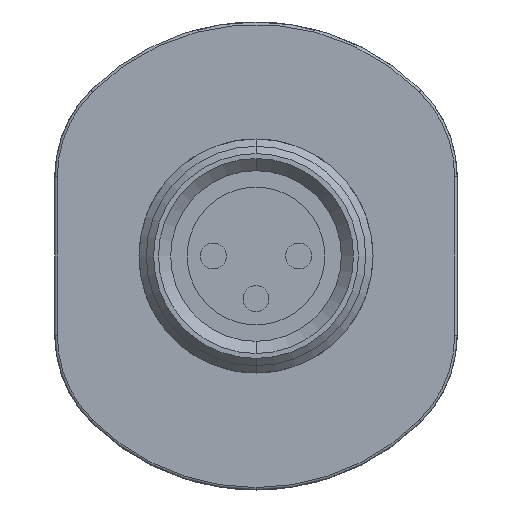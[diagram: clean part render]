
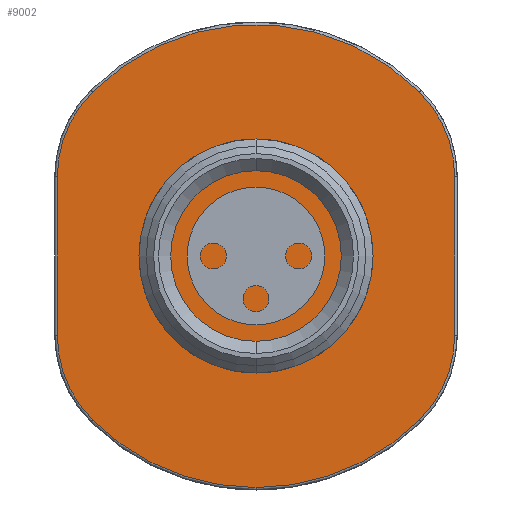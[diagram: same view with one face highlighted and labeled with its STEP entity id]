
A CAD part, left-side view. The second image highlights one B-rep face of the part: STEP entity #9002.
In plain terms, the highlighted planar face has unit normal (-1, 0, 0).
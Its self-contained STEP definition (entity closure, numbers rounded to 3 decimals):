
#19 = AXIS2_PLACEMENT_3D ( 'NONE', #7682, #33, #1729 ) ;
#33 = DIRECTION ( 'NONE',  ( -1., 0., 0. ) ) ;
#333 = LINE ( 'NONE', #4489, #15792 ) ;
#511 = EDGE_CURVE ( 'NONE', #1897, #17822, #5029, .T. ) ;
#1247 = DIRECTION ( 'NONE',  ( 0., 0., -1. ) ) ;
#1471 = EDGE_CURVE ( 'NONE', #7223, #5273, #3678, .T. ) ;
#1729 = DIRECTION ( 'NONE',  ( 0., 0., -1. ) ) ;
#1897 = VERTEX_POINT ( 'NONE', #17645 ) ;
#2106 = DIRECTION ( 'NONE',  ( 0., 0., -1. ) ) ;
#2234 = AXIS2_PLACEMENT_3D ( 'NONE', #18910, #19753, #19065 ) ;
#2581 = VECTOR ( 'NONE', #1247, 1000. ) ;
#2825 = VERTEX_POINT ( 'NONE', #15793 ) ;
#2945 = VERTEX_POINT ( 'NONE', #19493 ) ;
#3105 = LINE ( 'NONE', #21486, #2581 ) ;
#3678 = CIRCLE ( 'NONE', #16565, 4.9 ) ;
#4489 = CARTESIAN_POINT ( 'NONE',  ( 0., -8.15, 3.255 ) ) ;
#5023 = DIRECTION ( 'NONE',  ( -1., 0., 0. ) ) ;
#5029 = CIRCLE ( 'NONE', #5405, 4.9 ) ;
#5253 = DIRECTION ( 'NONE',  ( 1., 0., 0. ) ) ;
#5273 = VERTEX_POINT ( 'NONE', #5600 ) ;
#5405 = AXIS2_PLACEMENT_3D ( 'NONE', #17285, #15548, #12168 ) ;
#5600 = CARTESIAN_POINT ( 'NONE',  ( 0., -8.15, -3.255 ) ) ;
#5837 = EDGE_CURVE ( 'NONE', #9157, #17673, #6816, .T. ) ;
#5943 = ORIENTED_EDGE ( 'NONE', *, *, #17947, .T. ) ;
#6132 = CIRCLE ( 'NONE', #9621, 9.5 ) ;
#6288 = CARTESIAN_POINT ( 'NONE',  ( 0., -3.25, 3.255 ) ) ;
#6816 = CIRCLE ( 'NONE', #14671, 4.9 ) ;
#7223 = VERTEX_POINT ( 'NONE', #16296 ) ;
#7682 = CARTESIAN_POINT ( 'NONE',  ( 0., 0., 0. ) ) ;
#7835 = AXIS2_PLACEMENT_3D ( 'NONE', #8234, #5253, #17039 ) ;
#7945 = DIRECTION ( 'NONE',  ( 0., 0., -1. ) ) ;
#8234 = CARTESIAN_POINT ( 'NONE',  ( 0., 0., 0. ) ) ;
#9002 = ADVANCED_FACE ( 'NONE', ( #19372 ), #10659, .F. ) ;
#9157 = VERTEX_POINT ( 'NONE', #12965 ) ;
#9507 = DIRECTION ( 'NONE',  ( 0., 0., -1. ) ) ;
#9621 = AXIS2_PLACEMENT_3D ( 'NONE', #19565, #19808, #19781 ) ;
#9622 = ORIENTED_EDGE ( 'NONE', *, *, #17642, .T. ) ;
#10659 = PLANE ( 'NONE',  #7835 ) ;
#10739 = DIRECTION ( 'NONE',  ( -1., 0., 0. ) ) ;
#11351 = DIRECTION ( 'NONE',  ( 0., 0., 1. ) ) ;
#11376 = ORIENTED_EDGE ( 'NONE', *, *, #20659, .T. ) ;
#11414 = CIRCLE ( 'NONE', #2234, 9.5 ) ;
#11457 = CIRCLE ( 'NONE', #13573, 4.9 ) ;
#12168 = DIRECTION ( 'NONE',  ( 0., 0., -1. ) ) ;
#12431 = CARTESIAN_POINT ( 'NONE',  ( 0., 3.25, 3.255 ) ) ;
#12456 = ORIENTED_EDGE ( 'NONE', *, *, #1471, .T. ) ;
#12965 = CARTESIAN_POINT ( 'NONE',  ( 0., 6.712, 6.723 ) ) ;
#13573 = AXIS2_PLACEMENT_3D ( 'NONE', #6288, #18100, #7945 ) ;
#14101 = EDGE_CURVE ( 'NONE', #17822, #14331, #18977, .T. ) ;
#14331 = VERTEX_POINT ( 'NONE', #15788 ) ;
#14671 = AXIS2_PLACEMENT_3D ( 'NONE', #12431, #5023, #2106 ) ;
#15115 = ORIENTED_EDGE ( 'NONE', *, *, #5837, .T. ) ;
#15548 = DIRECTION ( 'NONE',  ( -1., 0., 0. ) ) ;
#15788 = CARTESIAN_POINT ( 'NONE',  ( 0., 0., -9.5 ) ) ;
#15792 = VECTOR ( 'NONE', #11351, 1000. ) ;
#15793 = CARTESIAN_POINT ( 'NONE',  ( 0., -6.712, 6.723 ) ) ;
#16296 = CARTESIAN_POINT ( 'NONE',  ( 0., -6.712, -6.723 ) ) ;
#16510 = ORIENTED_EDGE ( 'NONE', *, *, #511, .T. ) ;
#16565 = AXIS2_PLACEMENT_3D ( 'NONE', #19705, #10739, #9507 ) ;
#16690 = EDGE_CURVE ( 'NONE', #5273, #2945, #333, .T. ) ;
#17039 = DIRECTION ( 'NONE',  ( 0., 0., -1. ) ) ;
#17072 = ORIENTED_EDGE ( 'NONE', *, *, #16690, .T. ) ;
#17285 = CARTESIAN_POINT ( 'NONE',  ( 0., 3.25, -3.255 ) ) ;
#17642 = EDGE_CURVE ( 'NONE', #14331, #7223, #11414, .T. ) ;
#17645 = CARTESIAN_POINT ( 'NONE',  ( 0., 8.15, -3.255 ) ) ;
#17673 = VERTEX_POINT ( 'NONE', #20555 ) ;
#17822 = VERTEX_POINT ( 'NONE', #18180 ) ;
#17947 = EDGE_CURVE ( 'NONE', #2825, #9157, #6132, .T. ) ;
#18100 = DIRECTION ( 'NONE',  ( -1., 0., 0. ) ) ;
#18180 = CARTESIAN_POINT ( 'NONE',  ( 0., 6.712, -6.723 ) ) ;
#18910 = CARTESIAN_POINT ( 'NONE',  ( 0., 0., 0. ) ) ;
#18977 = CIRCLE ( 'NONE', #19, 9.5 ) ;
#19065 = DIRECTION ( 'NONE',  ( 0., 0., -1. ) ) ;
#19372 = FACE_OUTER_BOUND ( 'NONE', #19867, .T. ) ;
#19493 = CARTESIAN_POINT ( 'NONE',  ( 0., -8.15, 3.255 ) ) ;
#19565 = CARTESIAN_POINT ( 'NONE',  ( 0., 0., 0. ) ) ;
#19705 = CARTESIAN_POINT ( 'NONE',  ( 0., -3.25, -3.255 ) ) ;
#19753 = DIRECTION ( 'NONE',  ( -1., 0., 0. ) ) ;
#19781 = DIRECTION ( 'NONE',  ( 0., 0., -1. ) ) ;
#19808 = DIRECTION ( 'NONE',  ( -1., 0., 0. ) ) ;
#19867 = EDGE_LOOP ( 'NONE', ( #17072, #19936, #5943, #15115, #11376, #16510, #21138, #9622, #12456 ) ) ;
#19936 = ORIENTED_EDGE ( 'NONE', *, *, #20668, .T. ) ;
#20555 = CARTESIAN_POINT ( 'NONE',  ( 0., 8.15, 3.255 ) ) ;
#20659 = EDGE_CURVE ( 'NONE', #17673, #1897, #3105, .T. ) ;
#20668 = EDGE_CURVE ( 'NONE', #2945, #2825, #11457, .T. ) ;
#21138 = ORIENTED_EDGE ( 'NONE', *, *, #14101, .T. ) ;
#21486 = CARTESIAN_POINT ( 'NONE',  ( 0., 8.15, -3.255 ) ) ;
